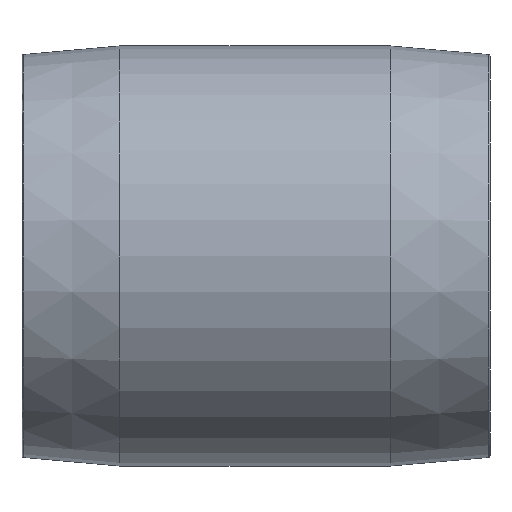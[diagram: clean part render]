
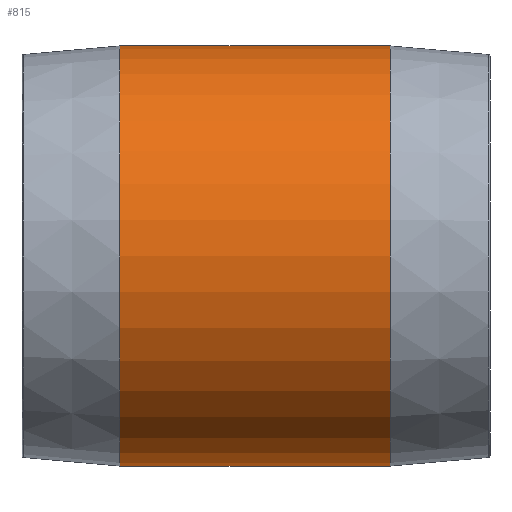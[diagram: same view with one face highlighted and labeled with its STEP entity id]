
A CAD part, front view. The second image highlights one B-rep face of the part: STEP entity #815.
In plain terms, the highlighted cylindrical face has radius 54.75 mm (diameter 109.5 mm), a partial arc.
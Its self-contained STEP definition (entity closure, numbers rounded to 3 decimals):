
#1 = CARTESIAN_POINT ( 'NONE',  ( 26., 0., -54.75 ) ) ;
#50 = VECTOR ( 'NONE', #2699, 1000. ) ;
#249 = ORIENTED_EDGE ( 'NONE', *, *, #2293, .F. ) ;
#375 = CARTESIAN_POINT ( 'NONE',  ( 26., 0., 0. ) ) ;
#675 = DIRECTION ( 'NONE',  ( 0., 0., -1. ) ) ;
#697 = AXIS2_PLACEMENT_3D ( 'NONE', #375, #742, #1497 ) ;
#742 = DIRECTION ( 'NONE',  ( 1., 0., 0. ) ) ;
#789 = EDGE_CURVE ( 'NONE', #1984, #1199, #1458, .T. ) ;
#815 = ADVANCED_FACE ( 'NONE', ( #2307 ), #2874, .T. ) ;
#920 = VECTOR ( 'NONE', #1305, 1000. ) ;
#1015 = ORIENTED_EDGE ( 'NONE', *, *, #789, .F. ) ;
#1078 = CARTESIAN_POINT ( 'NONE',  ( 122., 0., -54.75 ) ) ;
#1191 = ORIENTED_EDGE ( 'NONE', *, *, #2112, .T. ) ;
#1199 = VERTEX_POINT ( 'NONE', #2054 ) ;
#1209 = AXIS2_PLACEMENT_3D ( 'NONE', #2650, #2739, #2672 ) ;
#1247 = CIRCLE ( 'NONE', #1287, 54.75 ) ;
#1287 = AXIS2_PLACEMENT_3D ( 'NONE', #1687, #1723, #675 ) ;
#1305 = DIRECTION ( 'NONE',  ( 1., 0., 0. ) ) ;
#1458 = LINE ( 'NONE', #2718, #50 ) ;
#1497 = DIRECTION ( 'NONE',  ( 0., 0., -1. ) ) ;
#1508 = CARTESIAN_POINT ( 'NONE',  ( 96.5, 0., -54.75 ) ) ;
#1576 = CARTESIAN_POINT ( 'NONE',  ( 26., 0., 54.75 ) ) ;
#1687 = CARTESIAN_POINT ( 'NONE',  ( 96.5, 0., 0. ) ) ;
#1723 = DIRECTION ( 'NONE',  ( 1., 0., 0. ) ) ;
#1960 = CIRCLE ( 'NONE', #697, 54.75 ) ;
#1984 = VERTEX_POINT ( 'NONE', #1576 ) ;
#2054 = CARTESIAN_POINT ( 'NONE',  ( 96.5, 0., 54.75 ) ) ;
#2106 = VERTEX_POINT ( 'NONE', #1 ) ;
#2112 = EDGE_CURVE ( 'NONE', #2106, #2286, #2603, .T. ) ;
#2169 = EDGE_CURVE ( 'NONE', #1984, #2106, #1960, .T. ) ;
#2286 = VERTEX_POINT ( 'NONE', #1508 ) ;
#2293 = EDGE_CURVE ( 'NONE', #1199, #2286, #1247, .T. ) ;
#2307 = FACE_OUTER_BOUND ( 'NONE', #2799, .T. ) ;
#2603 = LINE ( 'NONE', #1078, #920 ) ;
#2650 = CARTESIAN_POINT ( 'NONE',  ( 122., 0., 0. ) ) ;
#2672 = DIRECTION ( 'NONE',  ( 0., 0., -1. ) ) ;
#2699 = DIRECTION ( 'NONE',  ( 1., 0., 0. ) ) ;
#2718 = CARTESIAN_POINT ( 'NONE',  ( 122., 0., 54.75 ) ) ;
#2736 = ORIENTED_EDGE ( 'NONE', *, *, #2169, .T. ) ;
#2739 = DIRECTION ( 'NONE',  ( 1., 0., 0. ) ) ;
#2799 = EDGE_LOOP ( 'NONE', ( #1015, #2736, #1191, #249 ) ) ;
#2874 = CYLINDRICAL_SURFACE ( 'NONE', #1209, 54.75 ) ;
